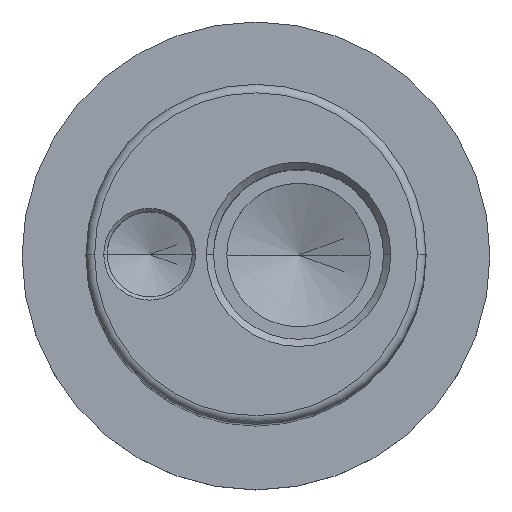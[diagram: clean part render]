
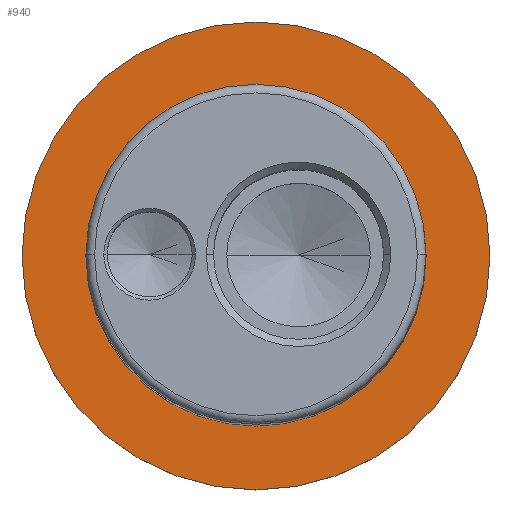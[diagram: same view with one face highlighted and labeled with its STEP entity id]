
A CAD part, top view. The second image highlights one B-rep face of the part: STEP entity #940.
In plain terms, the highlighted planar face has unit normal (0, 0, 1).
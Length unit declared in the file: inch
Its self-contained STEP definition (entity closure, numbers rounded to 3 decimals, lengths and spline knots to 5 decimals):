
#131 = DIRECTION ( 'NONE',  ( 1., 0., 0. ) ) ;
#132 = DIRECTION ( 'NONE',  ( 0., 0., 1. ) ) ;
#255 = CIRCLE ( 'NONE', #352, 0.6875 ) ;
#286 = CARTESIAN_POINT ( 'NONE',  ( 0.6875, 0., -2.875 ) ) ;
#347 = CARTESIAN_POINT ( 'NONE',  ( 0., 0., -2.875 ) ) ;
#348 = AXIS2_PLACEMENT_3D ( 'NONE', #347, #407, #406 ) ;
#350 = DIRECTION ( 'NONE',  ( 1., 0., 0. ) ) ;
#351 = DIRECTION ( 'NONE',  ( 0., 0., 1. ) ) ;
#352 = AXIS2_PLACEMENT_3D ( 'NONE', #396, #364, #405 ) ;
#354 = CARTESIAN_POINT ( 'NONE',  ( -0.5, 0., -2.875 ) ) ;
#355 = FACE_OUTER_BOUND ( 'NONE', #913, .T. ) ;
#356 = CARTESIAN_POINT ( 'NONE',  ( 0.5, 0., -2.875 ) ) ;
#359 = AXIS2_PLACEMENT_3D ( 'NONE', #363, #351, #350 ) ;
#360 = CIRCLE ( 'NONE', #348, 0.5 ) ;
#362 = CIRCLE ( 'NONE', #359, 0.6875 ) ;
#363 = CARTESIAN_POINT ( 'NONE',  ( 0., 0., -2.875 ) ) ;
#364 = DIRECTION ( 'NONE',  ( 0., 0., 1. ) ) ;
#385 = CARTESIAN_POINT ( 'NONE',  ( -0.6875, 0., -2.875 ) ) ;
#394 = CARTESIAN_POINT ( 'NONE',  ( 0., 0., -2.875 ) ) ;
#395 = AXIS2_PLACEMENT_3D ( 'NONE', #394, #132, #131 ) ;
#396 = CARTESIAN_POINT ( 'NONE',  ( 0., 0., -2.875 ) ) ;
#402 = FACE_BOUND ( 'NONE', #933, .T. ) ;
#403 = PLANE ( 'NONE',  #395 ) ;
#405 = DIRECTION ( 'NONE',  ( 1., 0., 0. ) ) ;
#406 = DIRECTION ( 'NONE',  ( 1., 0., 0. ) ) ;
#407 = DIRECTION ( 'NONE',  ( 0., 0., 1. ) ) ;
#540 = CIRCLE ( 'NONE', #585, 0.5 ) ;
#583 = DIRECTION ( 'NONE',  ( 1., 0., 0. ) ) ;
#584 = DIRECTION ( 'NONE',  ( 0., 0., 1. ) ) ;
#585 = AXIS2_PLACEMENT_3D ( 'NONE', #599, #584, #583 ) ;
#599 = CARTESIAN_POINT ( 'NONE',  ( 0., 0., -2.875 ) ) ;
#913 = EDGE_LOOP ( 'NONE', ( #985, #986 ) ) ;
#915 = VERTEX_POINT ( 'NONE', #286 ) ;
#918 = VERTEX_POINT ( 'NONE', #385 ) ;
#928 = EDGE_CURVE ( 'NONE', #915, #918, #362, .T. ) ;
#929 = VERTEX_POINT ( 'NONE', #354 ) ;
#931 = EDGE_CURVE ( 'NONE', #929, #932, #360, .T. ) ;
#932 = VERTEX_POINT ( 'NONE', #356 ) ;
#933 = EDGE_LOOP ( 'NONE', ( #994, #995 ) ) ;
#940 = ADVANCED_FACE ( 'NONE', ( #355, #402 ), #403, .T. ) ;
#943 = EDGE_CURVE ( 'NONE', #918, #915, #255, .T. ) ;
#985 = ORIENTED_EDGE ( 'NONE', *, *, #943, .T. ) ;
#986 = ORIENTED_EDGE ( 'NONE', *, *, #928, .T. ) ;
#994 = ORIENTED_EDGE ( 'NONE', *, *, #931, .F. ) ;
#995 = ORIENTED_EDGE ( 'NONE', *, *, #1006, .F. ) ;
#1006 = EDGE_CURVE ( 'NONE', #932, #929, #540, .T. ) ;
